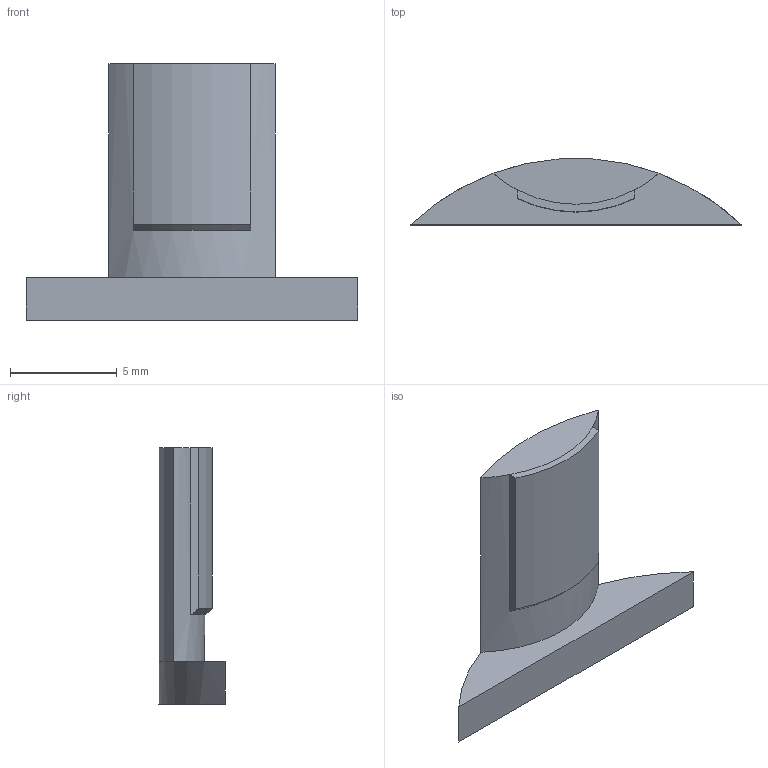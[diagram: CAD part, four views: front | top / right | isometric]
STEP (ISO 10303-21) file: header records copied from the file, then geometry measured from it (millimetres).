
FILE_DESCRIPTION(('FreeCAD Model'),'2;1');
FILE_NAME('Open CASCADE Shape Model','2026-01-25T17:10:57',(''),(''), 'Open CASCADE STEP processor 7.8','FreeCAD','Unknown');
FILE_SCHEMA(('AUTOMOTIVE_DESIGN { 1 0 10303 214 1 1 1 1 }'));
Length unit declared in the file: millimetre
Products named in the file (1): Slice.1
Bounding box: 15.51 x 3.09 x 12 mm (x, y, z)
Volume: 195.4 mm3; surface area: 304.5 mm2
Topology: 1 solids, 1 shells, 13 faces, 29 edges, 18 vertices
Faces by surface type: plane 6, cylinder 4, bspline 2, cone 1
Entity records: 428 total; most frequent: CARTESIAN_POINT 118, DIRECTION 62, ORIENTED_EDGE 58, EDGE_CURVE 29, AXIS2_PLACEMENT_3D 26, VERTEX_POINT 18, ADVANCED_FACE 13, FACE_BOUND 13
